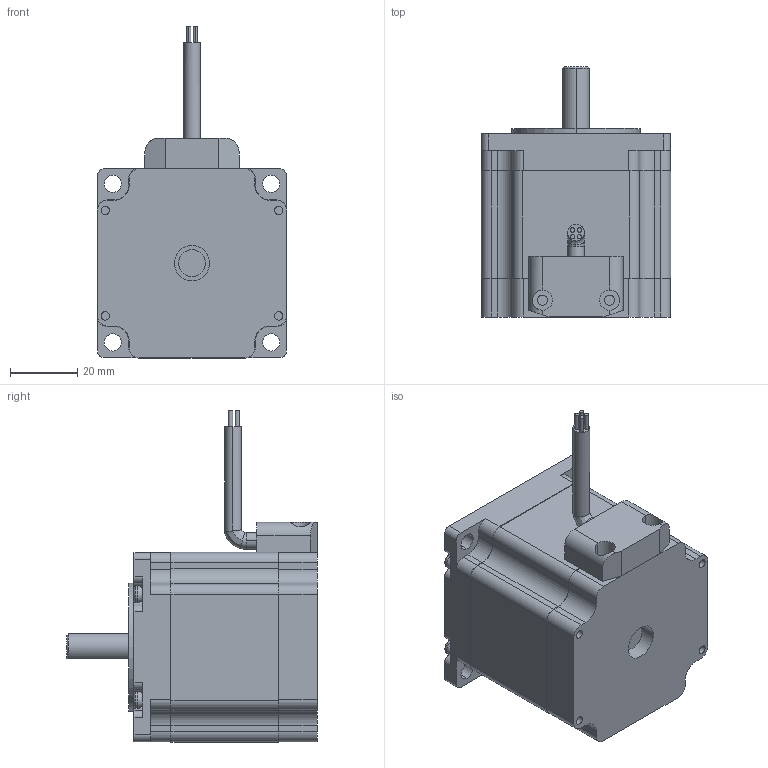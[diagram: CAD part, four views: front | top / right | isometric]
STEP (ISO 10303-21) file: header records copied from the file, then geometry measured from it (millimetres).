
FILE_DESCRIPTION (( 'STEP AP214' ), '1' );
FILE_NAME ('57BYGH255-3004A-8.STEP', '2018-09-14T05:02:23', ( 'Windows' ), ( 'Microsoft' ), 'SwSTEP 2.0', 'SolidWorks 2015', '' );
FILE_SCHEMA (( 'AUTOMOTIVE_DESIGN' ));
Length unit declared in the file: millimetre
Products named in the file (7): 揤盄裔; M3蹟隊; 57BYGHH255-8-20粣; 57綴傷裔; 57ヶ傷裔; 57隅赽32; 57BYGH255-3004A-8
Assembly tree (9 placements, depth 2):
  57BYGH255-3004A-8
    57隅赽32
    57ヶ傷裔
    57綴傷裔
    57BYGHH255-8-20粣
    M3蹟隊  x4
    揤盄裔
Bounding box: 56.4 x 74.5 x 98.73 mm (x, y, z)
Volume: 163078.9 mm3; surface area: 37613.8 mm2
Topology: 9 solids, 9 shells, 294 faces, 766 edges, 500 vertices
Faces by surface type: cylinder 153, plane 117, torus 18, bspline 4, cone 2
Entity records: 8916 total; most frequent: CARTESIAN_POINT 1463, DIRECTION 1311, ORIENTED_EDGE 1190, EDGE_CURVE 595, AXIS2_PLACEMENT_3D 498, VERTEX_POINT 392, LINE 315, VECTOR 315
